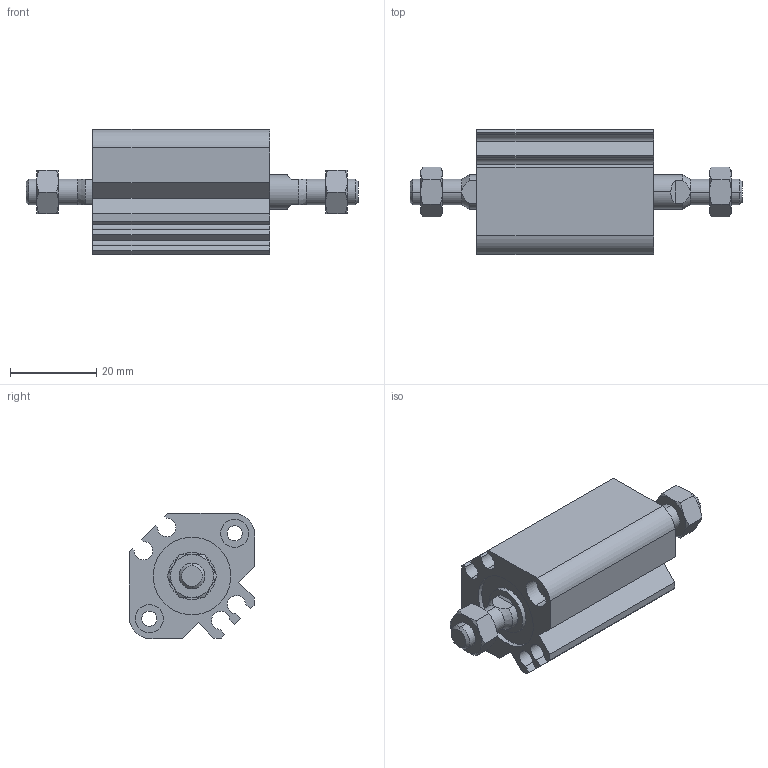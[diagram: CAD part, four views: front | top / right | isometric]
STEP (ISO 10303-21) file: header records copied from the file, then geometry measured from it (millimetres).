
FILE_DESCRIPTION (( 'STEP AP203' ), '1' );
FILE_NAME ('CCMB16-5M-P.STEP', '2020-08-10T11:04:23', ( '' ), ( '' ), 'SwSTEP 2.0', 'SolidWorks 2019', '' );
FILE_SCHEMA (( 'CONFIG_CONTROL_DESIGN' ));
Length unit declared in the file: millimetre
Products named in the file (1): CCMB16-5M-P
Bounding box: 77 x 29 x 29 mm (x, y, z)
Volume: 26885.4 mm3; surface area: 13612 mm2
Topology: 4 solids, 4 shells, 166 faces, 384 edges, 240 vertices
Faces by surface type: plane 66, cylinder 56, cone 44
Entity records: 5239 total; most frequent: CARTESIAN_POINT 1379, DIRECTION 806, ORIENTED_EDGE 768, EDGE_CURVE 384, AXIS2_PLACEMENT_3D 319, VERTEX_POINT 240, EDGE_LOOP 190, VECTOR 168
